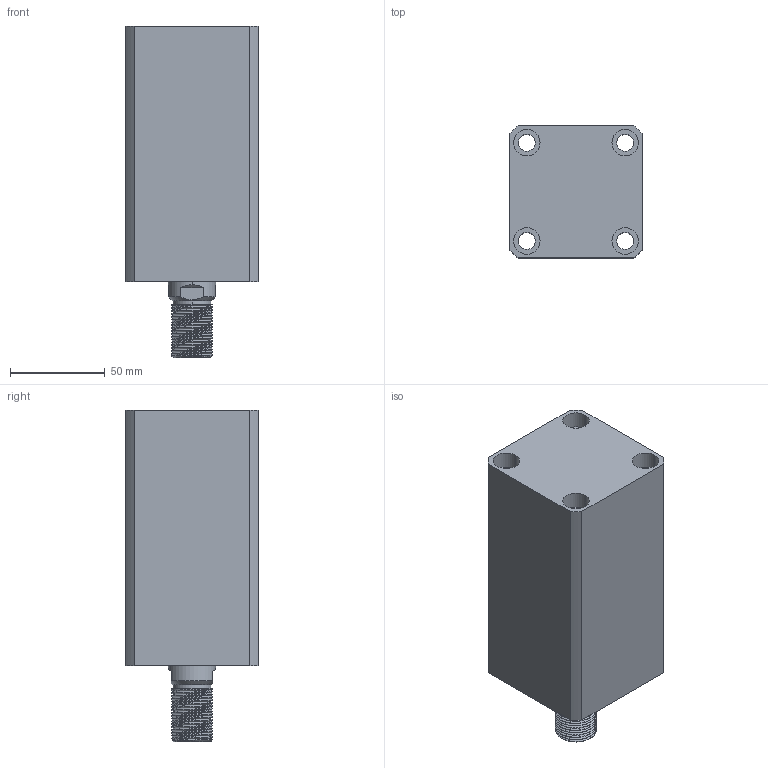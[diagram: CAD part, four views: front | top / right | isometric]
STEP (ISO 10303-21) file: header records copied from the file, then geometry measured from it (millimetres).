
FILE_DESCRIPTION (( 'STEP AP214' ), '1' );
FILE_NAME ('chtb-sd40x80w_asm.STEP', '2018-06-08T05:54:37', ( 'Windows' ), ( 'Microsoft' ), 'SwSTEP 2.0', 'SolidWorks 2015', '' );
FILE_SCHEMA (( 'AUTOMOTIVE_DESIGN' ));
Length unit declared in the file: millimetre
Products named in the file (4): CHTB-SD40X80WHSG; CHTB-SD40X80NBT; chtb-sd40x80w_asm; CHTB-SD40QG
Assembly tree (3 placements, depth 2):
  chtb-sd40x80w_asm
    CHTB-SD40X80NBT
    CHTB-SD40X80WHSG
    CHTB-SD40QG
Bounding box: 70 x 70 x 175 mm (x, y, z)
Volume: 562601.8 mm3; surface area: 109003.6 mm2
Topology: 3 solids, 4 shells, 203 faces, 533 edges, 355 vertices
Faces by surface type: cylinder 118, plane 40, bspline 16, cone 15, torus 14
Entity records: 13425 total; most frequent: CARTESIAN_POINT 8554, ORIENTED_EDGE 1054, DIRECTION 914, EDGE_CURVE 527, AXIS2_PLACEMENT_3D 380, VERTEX_POINT 355, EDGE_LOOP 240, FACE_OUTER_BOUND 203
